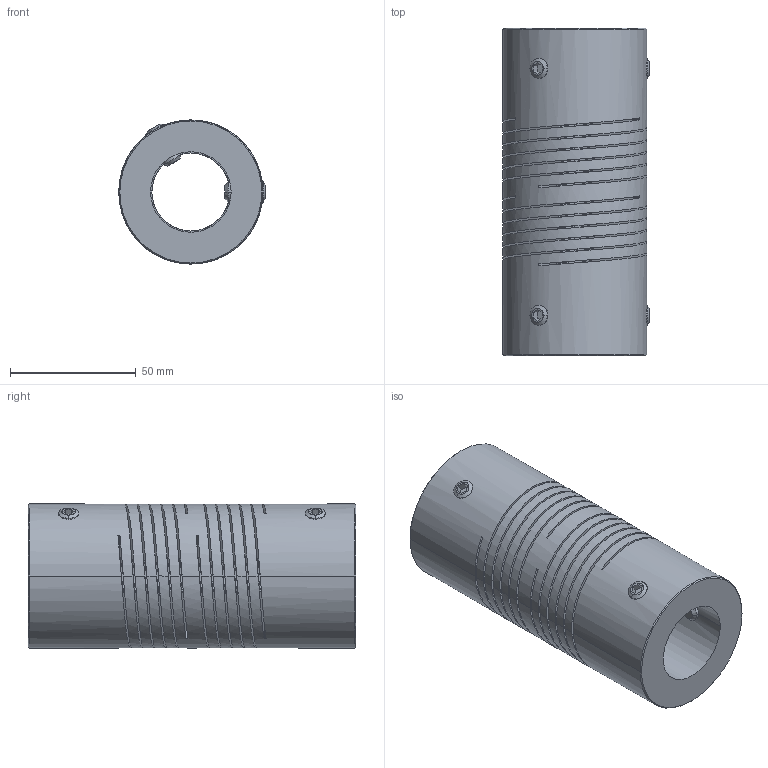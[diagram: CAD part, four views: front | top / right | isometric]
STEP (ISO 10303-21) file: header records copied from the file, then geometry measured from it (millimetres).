
FILE_DESCRIPTION((''),'2;1');
FILE_NAME('702_57_ASM','2006-12-06T',('Gary Melling'),(''),'PRO/ENGINEER BY PARAMETRIC TECHNOLOGY CORPORATION, 2006240','PRO/ENGINEER BY PARAMETRIC TECHNOLOGY CORPORATION, 2006240','');
FILE_SCHEMA(('CONFIG_CONTROL_DESIGN'));
Length unit declared in the file: millimetre
Products named in the file (3): 702_57; GS_8; 702_57_ASM
Assembly tree (5 placements, depth 2):
  702_57_ASM
    702_57
    GS_8  x4
Bounding box: 58.1 x 130 x 57.2 mm (x, y, z)
Volume: 216339.3 mm3; surface area: 82464.7 mm2
Topology: 5 solids, 5 shells, 144 faces, 400 edges, 256 vertices
Faces by surface type: cylinder 60, plane 52, cone 20, bspline 12
Entity records: 6993 total; most frequent: CARTESIAN_POINT 4418, ORIENTED_EDGE 608, DIRECTION 390, EDGE_CURVE 304, VERTEX_POINT 196, VECTOR 144, LINE 144, B_SPLINE_CURVE_WITH_KNOTS 132
